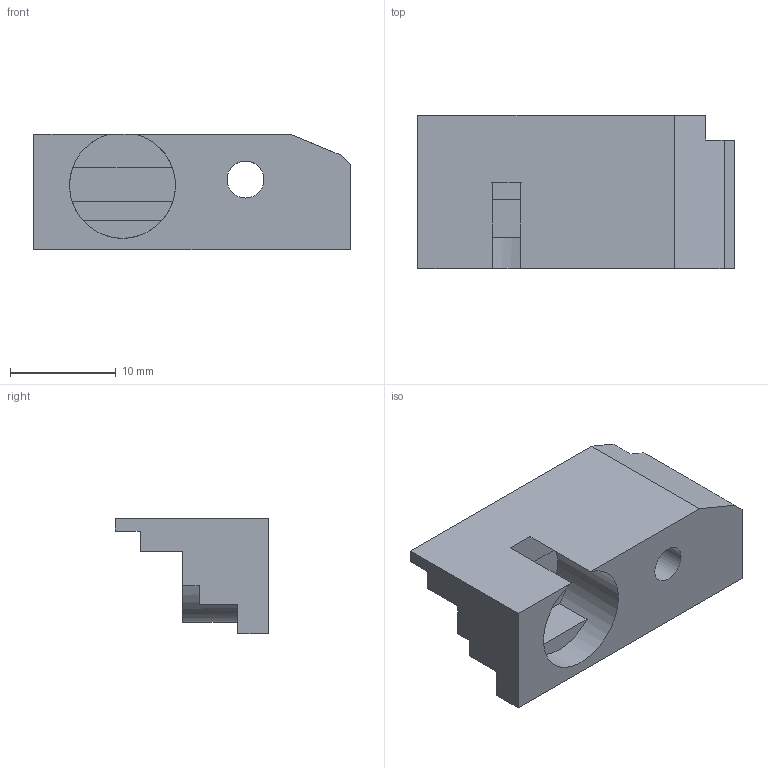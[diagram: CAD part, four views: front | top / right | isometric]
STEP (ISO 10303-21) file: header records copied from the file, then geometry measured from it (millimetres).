
FILE_DESCRIPTION(('Open CASCADE Model'),'2;1');
FILE_NAME('Open CASCADE Shape Model','2021-04-30T00:02:50',('Author'),( 'Open CASCADE'),'Open CASCADE STEP processor 7.4','Open CASCADE 7.4' ,'Unknown');
FILE_SCHEMA(('AUTOMOTIVE_DESIGN { 1 0 10303 214 1 1 1 1 }'));
Length unit declared in the file: millimetre
Products named in the file (1): Open CASCADE STEP translator 7.4 509
Bounding box: 29.94 x 14.48 x 10.93 mm (x, y, z)
Volume: 1797.2 mm3; surface area: 1926.3 mm2
Topology: 1 solids, 1 shells, 25 faces, 69 edges, 45 vertices
Faces by surface type: plane 23, cylinder 2
Full cylindrical faces by diameter (mm): 3.496 x1
Entity records: 1689 total; most frequent: CARTESIAN_POINT 298, DIRECTION 254, LINE 173, VECTOR 173, ORIENTED_EDGE 138, PCURVE 138, DEFINITIONAL_REPRESENTATION 138, EDGE_CURVE 69
